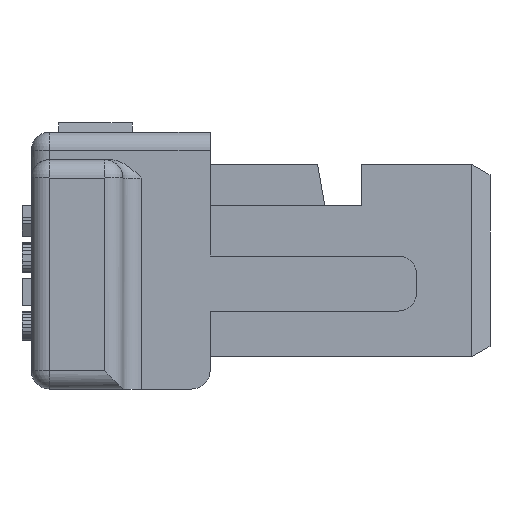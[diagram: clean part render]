
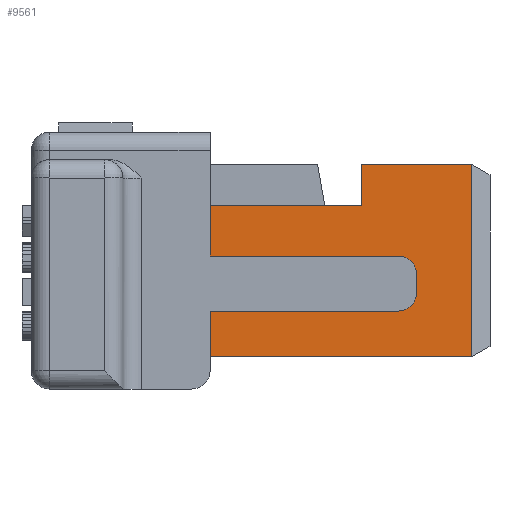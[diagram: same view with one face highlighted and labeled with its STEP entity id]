
A CAD part, left-side view. The second image highlights one B-rep face of the part: STEP entity #9561.
In plain terms, the highlighted planar face has unit normal (-1, 0, 0).
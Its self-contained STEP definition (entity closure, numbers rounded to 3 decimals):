
#905=DIRECTION('',(0.,0.,1.));
#906=VECTOR('',#905,2.1);
#907=CARTESIAN_POINT('',(1.3,-4.8,-2.45));
#908=LINE('',#907,#906);
#913=DIRECTION('',(0.,1.,0.));
#914=VECTOR('',#913,2.85);
#915=CARTESIAN_POINT('',(1.3,-4.8,-2.45));
#916=LINE('',#915,#914);
#917=DIRECTION('',(0.,0.,1.));
#918=VECTOR('',#917,0.5);
#919=CARTESIAN_POINT('',(1.3,-1.95,-2.45));
#920=LINE('',#919,#918);
#921=DIRECTION('',(0.,-1.,0.));
#922=VECTOR('',#921,2.05);
#923=CARTESIAN_POINT('',(1.3,-1.95,-1.95));
#924=LINE('',#923,#922);
#925=CARTESIAN_POINT('',(1.3,-4.,-1.75));
#926=DIRECTION('',(-1.,0.,0.));
#927=DIRECTION('',(0.,0.,-1.));
#928=AXIS2_PLACEMENT_3D('',#925,#926,#927);
#930=DIRECTION('',(0.,0.,1.));
#931=VECTOR('',#930,0.2);
#932=CARTESIAN_POINT('',(1.3,-4.2,-1.75));
#933=LINE('',#932,#931);
#934=CARTESIAN_POINT('',(1.3,-4.,-1.55));
#935=DIRECTION('',(-1.,0.,0.));
#936=DIRECTION('',(0.,-1.,0.));
#937=AXIS2_PLACEMENT_3D('',#934,#935,#936);
#939=DIRECTION('',(0.,1.,0.));
#940=VECTOR('',#939,2.05);
#941=CARTESIAN_POINT('',(1.3,-4.,-1.35));
#942=LINE('',#941,#940);
#943=DIRECTION('',(0.,0.,1.));
#944=VECTOR('',#943,0.55);
#945=CARTESIAN_POINT('',(1.3,-1.95,-1.35));
#946=LINE('',#945,#944);
#947=DIRECTION('',(0.,0.,1.));
#948=VECTOR('',#947,0.45);
#949=CARTESIAN_POINT('',(1.3,-3.6,-0.8));
#950=LINE('',#949,#948);
#951=DIRECTION('',(0.,-1.,0.));
#952=VECTOR('',#951,1.2);
#953=CARTESIAN_POINT('',(1.3,-3.6,-0.35));
#954=LINE('',#953,#952);
#1197=DIRECTION('',(0.,1.,0.));
#1198=VECTOR('',#1197,1.65);
#1199=CARTESIAN_POINT('',(1.3,-3.6,-0.8));
#1200=LINE('',#1199,#1198);
#7129=CARTESIAN_POINT('',(1.3,-4.8,-2.45));
#7131=VERTEX_POINT('',#7129);
#7212=CARTESIAN_POINT('',(1.3,-1.95,-2.45));
#7213=VERTEX_POINT('',#7212);
#7218=CARTESIAN_POINT('',(1.3,-4.8,-0.35));
#7219=VERTEX_POINT('',#7218);
#7222=CARTESIAN_POINT('',(1.3,-1.95,-1.95));
#7223=VERTEX_POINT('',#7222);
#7224=CARTESIAN_POINT('',(1.3,-4.,-1.95));
#7225=VERTEX_POINT('',#7224);
#7226=CARTESIAN_POINT('',(1.3,-4.2,-1.75));
#7227=VERTEX_POINT('',#7226);
#7228=CARTESIAN_POINT('',(1.3,-4.2,-1.55));
#7229=VERTEX_POINT('',#7228);
#7230=CARTESIAN_POINT('',(1.3,-4.,-1.35));
#7231=VERTEX_POINT('',#7230);
#7232=CARTESIAN_POINT('',(1.3,-1.95,-1.35));
#7233=VERTEX_POINT('',#7232);
#7234=CARTESIAN_POINT('',(1.3,-1.95,-0.8));
#7235=VERTEX_POINT('',#7234);
#7236=CARTESIAN_POINT('',(1.3,-3.6,-0.8));
#7237=VERTEX_POINT('',#7236);
#7238=CARTESIAN_POINT('',(1.3,-3.6,-0.35));
#7239=VERTEX_POINT('',#7238);
#9532=CARTESIAN_POINT('',(1.3,0.,0.));
#9533=DIRECTION('',(-1.,0.,0.));
#9534=DIRECTION('',(0.,0.,1.));
#9535=AXIS2_PLACEMENT_3D('',#9532,#9533,#9534);
#9536=PLANE('',#9535);
#9537=ORIENTED_EDGE('',*,*,#9522,.F.);
#9538=ORIENTED_EDGE('',*,*,#9497,.T.);
#9540=ORIENTED_EDGE('',*,*,#9539,.T.);
#9542=ORIENTED_EDGE('',*,*,#9541,.T.);
#9544=ORIENTED_EDGE('',*,*,#9543,.T.);
#9546=ORIENTED_EDGE('',*,*,#9545,.T.);
#9548=ORIENTED_EDGE('',*,*,#9547,.T.);
#9550=ORIENTED_EDGE('',*,*,#9549,.T.);
#9552=ORIENTED_EDGE('',*,*,#9551,.T.);
#9554=ORIENTED_EDGE('',*,*,#9553,.F.);
#9556=ORIENTED_EDGE('',*,*,#9555,.T.);
#9558=ORIENTED_EDGE('',*,*,#9557,.T.);
#9559=EDGE_LOOP('',(#9537,#9538,#9540,#9542,#9544,#9546,#9548,#9550,#9552,#9554,
#9556,#9558));
#9560=FACE_OUTER_BOUND('',#9559,.F.);
#9561=ADVANCED_FACE('',(#9560),#9536,.T.);
#929=CIRCLE('',#928,0.2);
#938=CIRCLE('',#937,0.2);
#9497=EDGE_CURVE('',#7131,#7213,#916,.T.);
#9522=EDGE_CURVE('',#7131,#7219,#908,.T.);
#9539=EDGE_CURVE('',#7213,#7223,#920,.T.);
#9541=EDGE_CURVE('',#7223,#7225,#924,.T.);
#9543=EDGE_CURVE('',#7225,#7227,#929,.T.);
#9545=EDGE_CURVE('',#7227,#7229,#933,.T.);
#9547=EDGE_CURVE('',#7229,#7231,#938,.T.);
#9549=EDGE_CURVE('',#7231,#7233,#942,.T.);
#9551=EDGE_CURVE('',#7233,#7235,#946,.T.);
#9553=EDGE_CURVE('',#7237,#7235,#1200,.T.);
#9555=EDGE_CURVE('',#7237,#7239,#950,.T.);
#9557=EDGE_CURVE('',#7239,#7219,#954,.T.);
